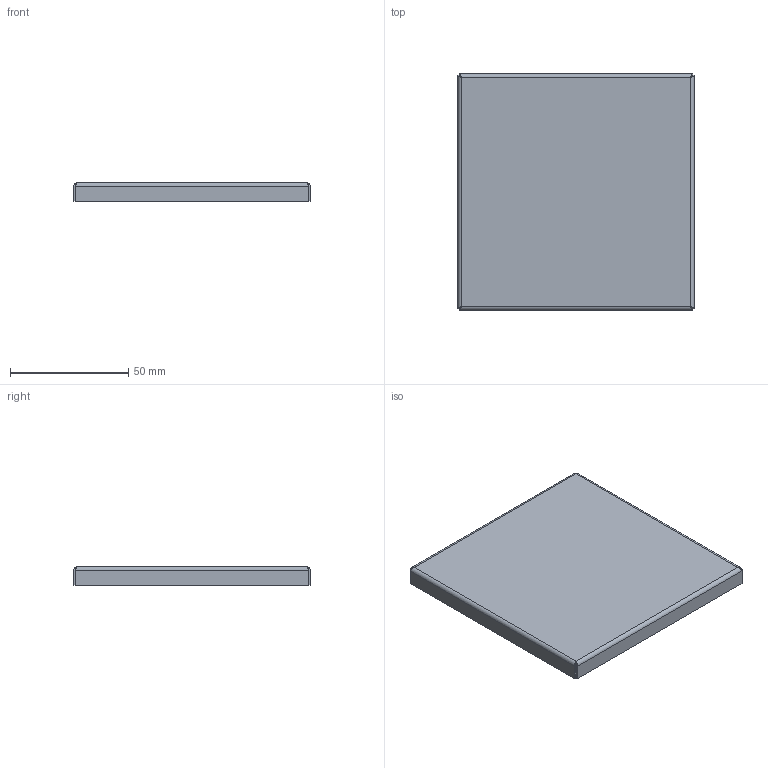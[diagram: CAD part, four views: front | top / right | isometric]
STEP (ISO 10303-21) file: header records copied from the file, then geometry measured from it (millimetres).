
FILE_DESCRIPTION(/* description */ ('-'),/* implementation_level */ '2;1');
FILE_NAME(/* name */ 'Decor_100x100.step',/* time_stamp */ '2025-01-27T18:45:34+01:00',/* author */ ('Jarosław Sierota'),/* organization */ ('JS'),/* preprocessor_version */ 'ST-DEVELOPER v20',/* originating_system */ 'Autodesk Inventor 2025',/* authorisation */ 'Jarosław Sierota');
FILE_SCHEMA (('AUTOMOTIVE_DESIGN { 1 0 10303 214 3 1 1 }'));
Length unit declared in the file: millimetre
Products named in the file (1): Decor_100x100
Bounding box: 100 x 100 x 8 mm (x, y, z)
Volume: 7242.4 mm3; surface area: 25676.5 mm2
Topology: 1 solids, 1 shells, 38 faces, 76 edges, 40 vertices
Faces by surface type: plane 22, bspline 8, cylinder 8
Entity records: 1399 total; most frequent: CARTESIAN_POINT 643, ORIENTED_EDGE 152, DIRECTION 122, EDGE_CURVE 76, LINE 60, VECTOR 60, VERTEX_POINT 40, FACE_OUTER_BOUND 38
